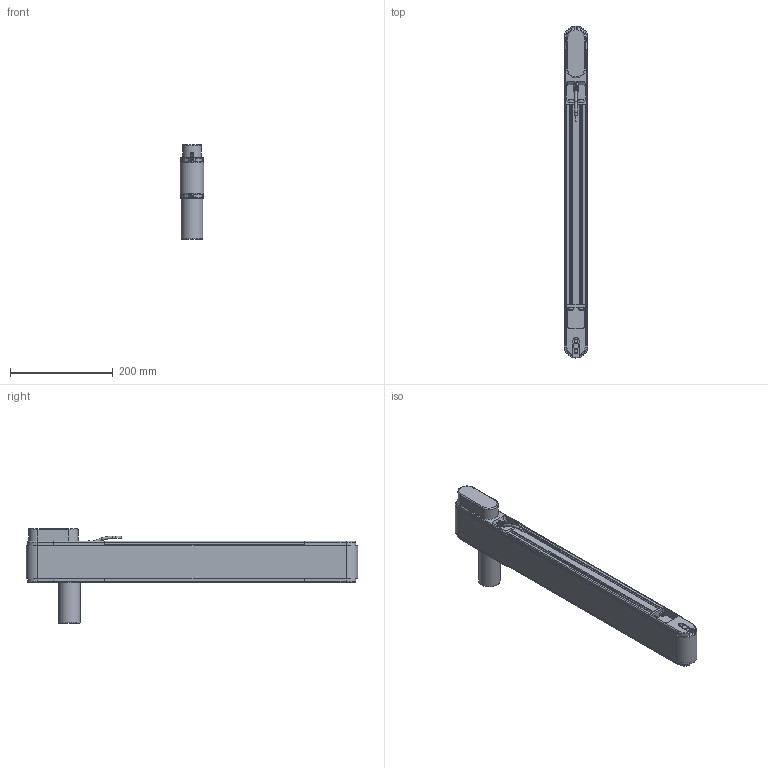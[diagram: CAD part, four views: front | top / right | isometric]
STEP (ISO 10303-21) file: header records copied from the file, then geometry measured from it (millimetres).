
FILE_DESCRIPTION(/* description */ (''),/* implementation_level */ '2;1');
FILE_NAME(/* name */ 'G:\DATEN\CAD\Förderband\Marketing\3D-Modelle (Standard)\FR-40-80-Q\FR-40-80-Q-600-K (Motorendrohr 80 mm).stp',/* time_stamp */ '2019-05-08T14:17:19+02:00',/* author */ ('melanie.ochs'),/* organization */ (''),/* preprocessor_version */ 'ST-DEVELOPER v17',/* originating_system */ 'Autodesk Inventor 2019',/* authorisation */ '');
FILE_SCHEMA (('CONFIG_CONTROL_DESIGN'));
Length unit declared in the file: centimetre
Products named in the file (1): FR-40-80-Q-600-K (Motorendrohr 80 mm)
Bounding box: 46.6 x 646.6 x 185 mm (x, y, z)
Volume: 1331234.9 mm3; surface area: 631968.8 mm2
Topology: 31 solids, 32 shells, 877 faces, 2386 edges, 1622 vertices
Faces by surface type: plane 440, cylinder 275, cone 70, bspline 61, torus 31
Full cylindrical faces by diameter (mm): 2 x2, 4 x6, 4.3 x4, 4.65 x1, 4.917 x2, 5 x11, 5.5 x8, 6 x2, 6.5 x1, 6.773 x1, 6.917 x2, 8 x7, 8.3 x12, 8.5 x8, 8.773 x1, 10 x1, 11 x1, 12 x3, 25 x2, 28 x4, 42 x2, 44 x2
Entity records: 29497 total; most frequent: CARTESIAN_POINT 6205, ORIENTED_EDGE 4736, DIRECTION 4597, EDGE_CURVE 2368, AXIS2_PLACEMENT_3D 1666, VERTEX_POINT 1622, LINE 1265, VECTOR 1265
